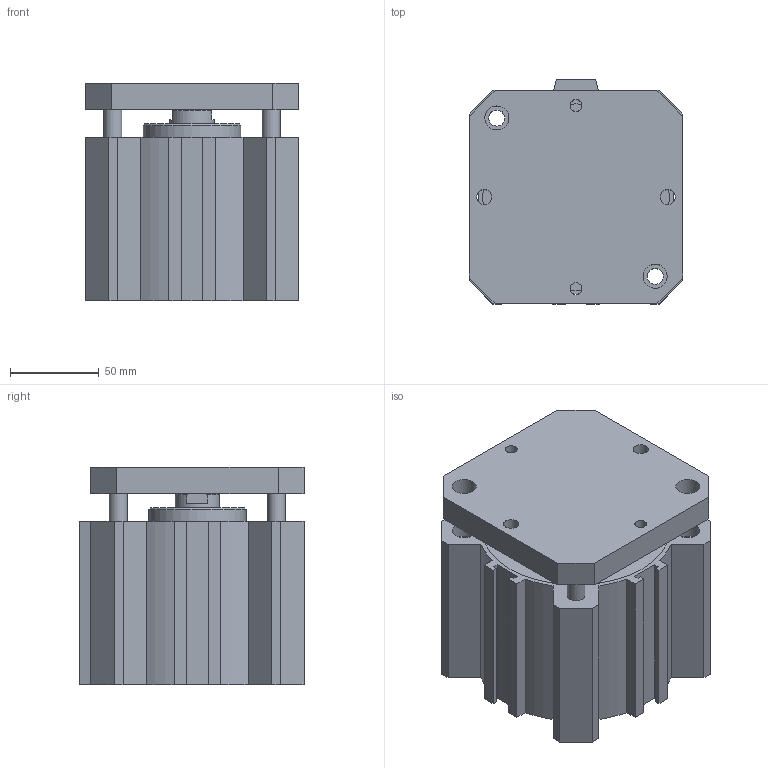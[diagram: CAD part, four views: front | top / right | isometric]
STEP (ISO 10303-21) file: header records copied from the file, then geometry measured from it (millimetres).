
FILE_DESCRIPTION(/* description */ (''),/* implementation_level */ '2;1');
FILE_NAME(/* name */ 'I:\Area Tecnica\Disegni\VARIE-3D\Componenti\1500\Ø100\15##_100_####_#\1501_100_0045_AR.stp',/* time_stamp */ '2016-08-24T15:09:52+02:00',/* author */ ('Maniean1'),/* organization */ (''),/* preprocessor_version */ 'ST-DEVELOPER v15.2',/* originating_system */ 'Autodesk Inventor 2014',/* authorisation */ '');
FILE_SCHEMA (('AUTOMOTIVE_DESIGN { 1 0 10303 214 3 1 1 }'));
Length unit declared in the file: millimetre
Products named in the file (3): C_1501_100_0045_AR; S_1501_100_0045_AR; 1501_100_0045_AR
Bounding box: 120 x 126 x 122.5 mm (x, y, z)
Volume: 954128.3 mm3; surface area: 201487.9 mm2
Topology: 2 solids, 2 shells, 139 faces, 342 edges, 229 vertices
Faces by surface type: plane 94, cylinder 40, cone 5
Full cylindrical faces by diameter (mm): 6.647 x2, 8.5 x2, 9 x4, 10 x4, 13.5 x10, 14.95 x2, 25 x2, 55 x2, 100 x2, 105 x2
Entity records: 3978 total; most frequent: CARTESIAN_POINT 674, DIRECTION 672, ORIENTED_EDGE 600, EDGE_CURVE 300, AXIS2_PLACEMENT_3D 232, VERTEX_POINT 222, EDGE_LOOP 216, LINE 208
